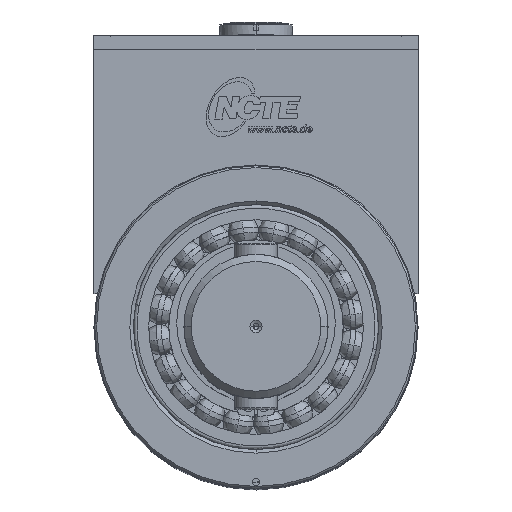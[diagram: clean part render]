
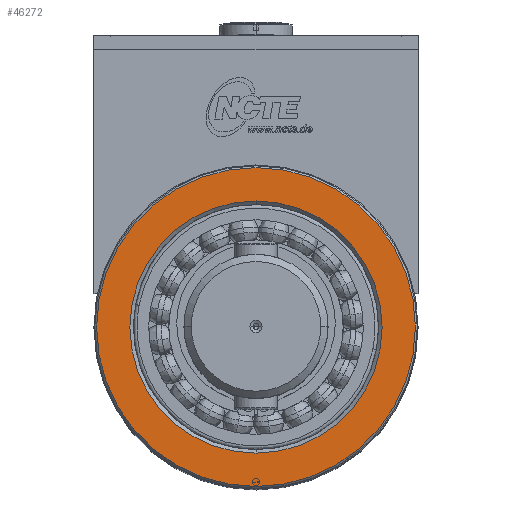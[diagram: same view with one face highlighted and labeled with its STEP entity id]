
A CAD part, top view. The second image highlights one B-rep face of the part: STEP entity #46272.
In plain terms, the highlighted planar face has unit normal (0, 0, -1).
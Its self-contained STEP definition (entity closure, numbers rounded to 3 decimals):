
#1318 = AXIS2_PLACEMENT_3D ( 'NONE', #42217, #3740, #42061 ) ;
#3740 = DIRECTION ( 'NONE',  ( 0., 0., 1. ) ) ;
#4065 = CARTESIAN_POINT ( 'NONE',  ( 44.25, 0., 20. ) ) ;
#6650 = CIRCLE ( 'NONE', #1318, 44.25 ) ;
#7533 = AXIS2_PLACEMENT_3D ( 'NONE', #34201, #41839, #18520 ) ;
#13705 = CIRCLE ( 'NONE', #19713, 35. ) ;
#13981 = VERTEX_POINT ( 'NONE', #4065 ) ;
#15291 = CIRCLE ( 'NONE', #47612, 35. ) ;
#18520 = DIRECTION ( 'NONE',  ( 1., 0., 0. ) ) ;
#19087 = CARTESIAN_POINT ( 'NONE',  ( -44.25, 0., 20. ) ) ;
#19461 = FACE_BOUND ( 'NONE', #33495, .T. ) ;
#19634 = EDGE_CURVE ( 'NONE', #13981, #38835, #24130, .T. ) ;
#19713 = AXIS2_PLACEMENT_3D ( 'NONE', #30563, #37921, #34511 ) ;
#22253 = PLANE ( 'NONE',  #7533 ) ;
#23887 = DIRECTION ( 'NONE',  ( 0., 0., -1. ) ) ;
#24050 = DIRECTION ( 'NONE',  ( 0., -1., 0. ) ) ;
#24130 = CIRCLE ( 'NONE', #38063, 44.25 ) ;
#24455 = VERTEX_POINT ( 'NONE', #40729 ) ;
#24839 = DIRECTION ( 'NONE',  ( -1., 0., 0. ) ) ;
#25685 = ORIENTED_EDGE ( 'NONE', *, *, #37907, .F. ) ;
#27986 = FACE_OUTER_BOUND ( 'NONE', #40127, .T. ) ;
#28574 = CARTESIAN_POINT ( 'NONE',  ( 0., 0., 20. ) ) ;
#30563 = CARTESIAN_POINT ( 'NONE',  ( 0., 0., 20. ) ) ;
#32203 = CARTESIAN_POINT ( 'NONE',  ( 0., 0., 20. ) ) ;
#32320 = DIRECTION ( 'NONE',  ( 0., 0., 1. ) ) ;
#32540 = CARTESIAN_POINT ( 'NONE',  ( 0., -35., 20. ) ) ;
#32727 = EDGE_CURVE ( 'NONE', #38581, #24455, #15291, .T. ) ;
#33350 = EDGE_CURVE ( 'NONE', #38835, #13981, #6650, .T. ) ;
#33479 = ORIENTED_EDGE ( 'NONE', *, *, #32727, .F. ) ;
#33495 = EDGE_LOOP ( 'NONE', ( #33479, #25685 ) ) ;
#34201 = CARTESIAN_POINT ( 'NONE',  ( 0., 0., 20. ) ) ;
#34511 = DIRECTION ( 'NONE',  ( 0., -1., 0. ) ) ;
#37907 = EDGE_CURVE ( 'NONE', #24455, #38581, #13705, .T. ) ;
#37921 = DIRECTION ( 'NONE',  ( 0., 0., -1. ) ) ;
#38063 = AXIS2_PLACEMENT_3D ( 'NONE', #28574, #32320, #24839 ) ;
#38581 = VERTEX_POINT ( 'NONE', #32540 ) ;
#38835 = VERTEX_POINT ( 'NONE', #19087 ) ;
#40127 = EDGE_LOOP ( 'NONE', ( #41057, #41887 ) ) ;
#40729 = CARTESIAN_POINT ( 'NONE',  ( 0., 35., 20. ) ) ;
#41057 = ORIENTED_EDGE ( 'NONE', *, *, #33350, .F. ) ;
#41839 = DIRECTION ( 'NONE',  ( 0., 0., 1. ) ) ;
#41887 = ORIENTED_EDGE ( 'NONE', *, *, #19634, .F. ) ;
#42061 = DIRECTION ( 'NONE',  ( -1., 0., 0. ) ) ;
#42217 = CARTESIAN_POINT ( 'NONE',  ( 0., 0., 20. ) ) ;
#46272 = ADVANCED_FACE ( 'NONE', ( #19461, #27986 ), #22253, .F. ) ;
#47612 = AXIS2_PLACEMENT_3D ( 'NONE', #32203, #23887, #24050 ) ;
